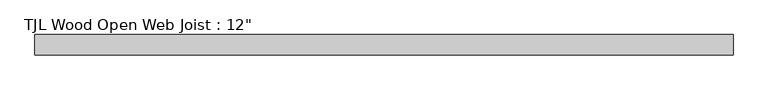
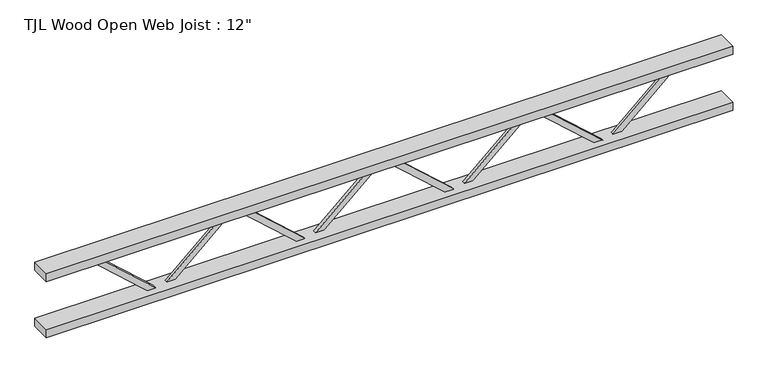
"""IFC4 building model written with IfcOpenShell, lengths in millimetres: beam geometry."""

from ifc_helpers import new_model, si_unit, frame, origin, place, context, project, spatial, polyline, outline, extrude, source, transform, mapped, element, save


def beam_903259cf(model_context):
    return source(origin(), model_context, "Body", "SweptSolid", [
        extrude(outline(polyline([(119.0625, 665.1625), (144.4625, 665.1625), (144.4625, 647.6097067), (-119.0625, 353.1284567), (-119.0625, 307.18125), (-144.4625, 307.18125), (-144.4625, 362.8340433), (119.0625, 657.3152933), (119.0625, 665.1625)])), frame((0.0, 0.0, 0.0), z_axis=(0.0, 1.0, 0.0), x_axis=(0.0, 0.0, 1.0)), (0.0, 0.0, 1.0), 12.7),
        extrude(outline(polyline([(144.4625, 0.0), (119.0625, 0.0), (119.0625, 7.8472067), (-144.4625, 302.3284567), (-144.4625, 357.98125), (-119.0625, 357.98125), (-119.0625, 312.0340433), (144.4625, 17.5527933), (144.4625, 0.0)])), frame((0.0, -12.7, 0.0), z_axis=(0.0, 1.0, 0.0), x_axis=(0.0, 0.0, 1.0)), (0.0, 0.0, 1.0), 12.7),
        extrude(outline(polyline([(119.0625, 0.0), (144.4625, 0.0), (144.4625, -17.5527933), (-119.0625, -312.0340433), (-119.0625, -357.98125), (-144.4625, -357.98125), (-144.4625, -302.3284567), (119.0625, -7.8472067), (119.0625, 0.0)])), frame((0.0, 0.0, 0.0), z_axis=(0.0, 1.0, 0.0), x_axis=(0.0, 0.0, 1.0)), (0.0, 0.0, 1.0), 12.7),
        extrude(outline(polyline([(144.4625, -665.1625), (119.0625, -665.1625), (119.0625, -657.3152933), (-144.4625, -362.8340433), (-144.4625, -307.18125), (-119.0625, -307.18125), (-119.0625, -353.1284567), (144.4625, -647.6097067), (144.4625, -665.1625)])), frame((0.0, -12.7, 0.0), z_axis=(0.0, 1.0, 0.0), x_axis=(0.0, 0.0, 1.0)), (0.0, 0.0, 1.0), 12.7),
        extrude(outline(polyline([(119.0625, 1330.325), (144.4625, 1330.325), (144.4625, 1312.7722067), (-119.0625, 1018.2909567), (-119.0625, 972.34375), (-144.4625, 972.34375), (-144.4625, 1027.9965433), (119.0625, 1322.4777933), (119.0625, 1330.325)])), frame((0.0, 0.0, 0.0), z_axis=(0.0, 1.0, 0.0), x_axis=(0.0, 0.0, 1.0)), (0.0, 0.0, 1.0), 12.7),
        extrude(outline(polyline([(144.4625, 665.1625), (119.0625, 665.1625), (119.0625, 673.0097067), (-144.4625, 967.4909567), (-144.4625, 1023.14375), (-119.0625, 1023.14375), (-119.0625, 977.1965433), (144.4625, 682.7152933), (144.4625, 665.1625)])), frame((0.0, -12.7, 0.0), z_axis=(0.0, 1.0, 0.0), x_axis=(0.0, 0.0, 1.0)), (0.0, 0.0, 1.0), 12.7),
        extrude(outline(polyline([(119.0625, -665.1625), (144.4625, -665.1625), (144.4625, -682.7152933), (-119.0625, -977.1965433), (-119.0625, -1023.14375), (-144.4625, -1023.14375), (-144.4625, -967.4909567), (119.0625, -673.0097067), (119.0625, -665.1625)])), frame((0.0, 0.0, 0.0), z_axis=(0.0, 1.0, 0.0), x_axis=(0.0, 0.0, 1.0)), (0.0, 0.0, 1.0), 12.7),
        extrude(outline(polyline([(144.4625, -1330.325), (119.0625, -1330.325), (119.0625, -1322.4777933), (-144.4625, -1027.9965433), (-144.4625, -972.34375), (-119.0625, -972.34375), (-119.0625, -1018.2909567), (144.4625, -1312.7722067), (144.4625, -1330.325)])), frame((0.0, -12.7, 0.0), z_axis=(0.0, 1.0, 0.0), x_axis=(0.0, 0.0, 1.0)), (0.0, 0.0, 1.0), 12.7),
        extrude(outline(polyline([(1533.525, 44.45), (1533.525, -44.45), (-1533.525, -44.45), (-1533.525, 44.45), (1533.525, 44.45)])), frame((0.0, 0.0, 112.7125), z_axis=(0.0, 0.0, 1.0), x_axis=(1.0, 0.0, 0.0)), (0.0, 0.0, 1.0), 38.1),
        extrude(outline(polyline([(1533.525, 44.45), (1533.525, -44.45), (-1533.525, -44.45), (-1533.525, 44.45), (1533.525, 44.45)])), frame((0.0, 0.0, -150.8125), z_axis=(0.0, 0.0, 1.0), x_axis=(1.0, 0.0, 0.0)), (0.0, 0.0, 1.0), 38.1),
    ])


if __name__ == "__main__":
    model = new_model("IFC4")
    model_context = context("Model", 3, world=origin())
    ifc_project = project(units=[si_unit("LENGTHUNIT", "METRE", prefix="MILLI")], contexts=[model_context])
    site = spatial("IfcSite", under=ifc_project)
    building = spatial("IfcBuilding", under=site)
    placement = place(None, origin())
    beam_shape = beam_903259cf(model_context)
    element("IfcBeam", 1, ObjectType="TJL Wood Open Web Joist : 12\"", at=placement, inside=building, context=model_context, shape_type="MappedRepresentation", body=[
        mapped(beam_shape, transform((0.0, 0.0, 0.0), x_axis=(1.0, 0.0, 0.0), y_axis=(0.0, 1.0, 0.0), z_axis=(0.0, 0.0, 1.0))),
    ])
    save(model, "model.ifc")
